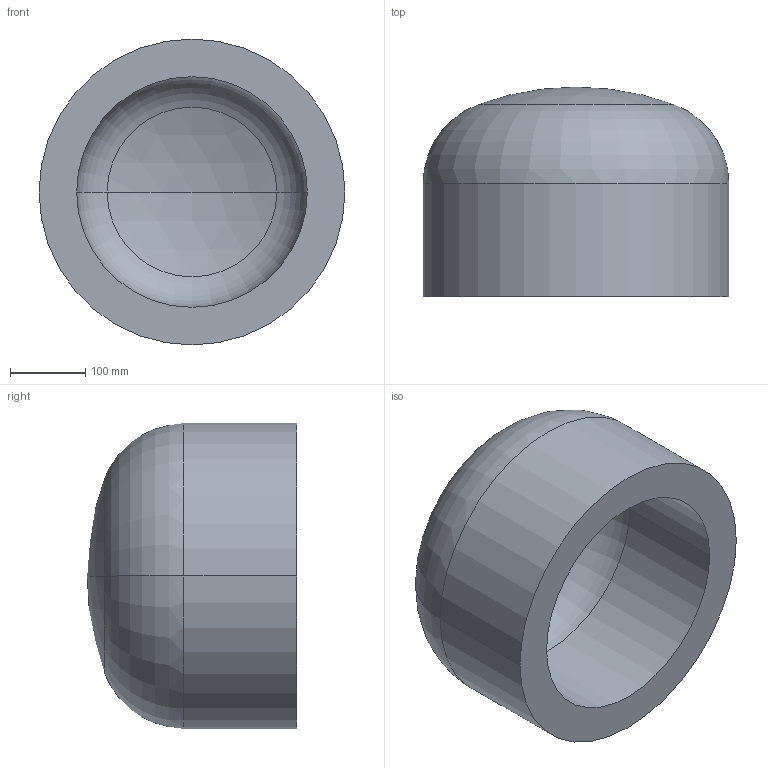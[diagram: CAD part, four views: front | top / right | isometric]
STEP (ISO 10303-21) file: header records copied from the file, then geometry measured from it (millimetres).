
FILE_DESCRIPTION (( 'STEP AP203' ), '1' );
FILE_NAME ('DIN 28013 Korbbogenform_-_Boden DIN 28013 - 406,4 x 150 - I - s=50.step', '2016-07-01T07:51:35', ( '' ), ( '' ), 'SwSTEP 2.0', 'SolidWorks 2013', '' );
FILE_SCHEMA (( 'CONFIG_CONTROL_DESIGN' ));
Length unit declared in the file: millimetre
Products named in the file (1): DIN 28013 Korbbogenform_-_Boden DIN 28013 - 406,4 x 150 - I - s=50
Bounding box: 406.4 x 278.32 x 406.4 mm (x, y, z)
Volume: 16113940.2 mm3; surface area: 705776.7 mm2
Topology: 1 solids, 1 shells, 13 faces, 24 edges, 14 vertices
Faces by surface type: torus 4, cylinder 4, sphere 4, plane 1
Entity records: 407 total; most frequent: DIRECTION 72, CARTESIAN_POINT 52, ORIENTED_EDGE 48, AXIS2_PLACEMENT_3D 34, EDGE_CURVE 24, CIRCLE 20, VERTEX_POINT 14, EDGE_LOOP 14
